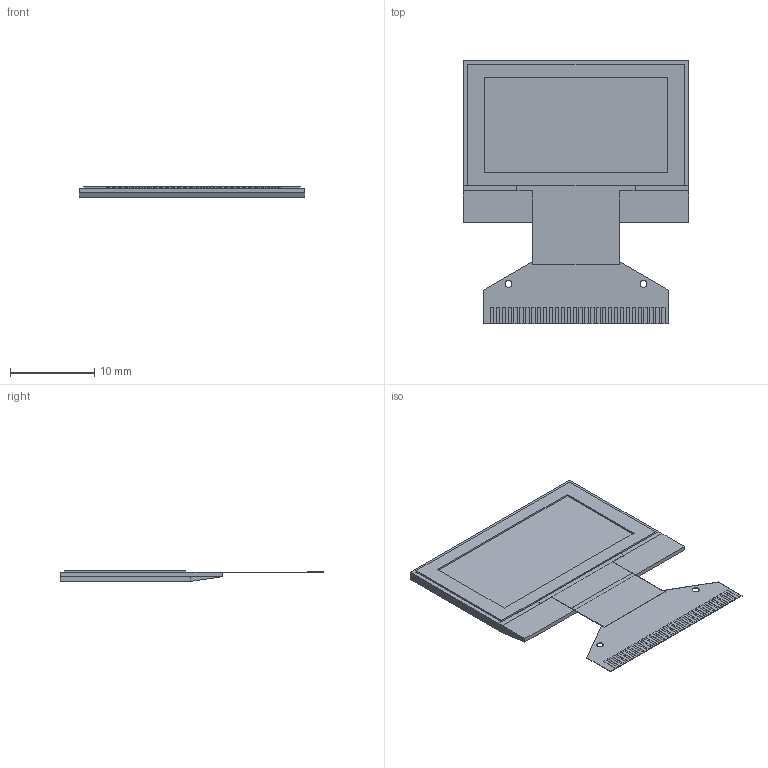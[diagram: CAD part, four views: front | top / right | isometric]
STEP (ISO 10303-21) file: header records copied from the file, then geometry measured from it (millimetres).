
FILE_DESCRIPTION (( 'STEP AP214' ), '1' );
FILE_NAME ('CFAL12864N-A-B4.STEP', '2020-01-17T00:09:29', ( '' ), ( '' ), 'SwSTEP 2.0', 'SolidWorks 2015', '' );
FILE_SCHEMA (( 'AUTOMOTIVE_DESIGN' ));
Length unit declared in the file: millimetre
Products named in the file (1): CFAL12864N-A-B4
Bounding box: 26.7 x 31.26 x 1.26 mm (x, y, z)
Volume: 552.7 mm3; surface area: 3094.4 mm2
Topology: 36 solids, 36 shells, 235 faces, 491 edges, 330 vertices
Faces by surface type: plane 231, cylinder 4
Entity records: 8709 total; most frequent: CARTESIAN_POINT 1057, ORIENTED_EDGE 982, DIRECTION 971, EDGE_CURVE 491, LINE 483, VECTOR 483, VERTEX_POINT 330, AXIS2_PLACEMENT_3D 244
